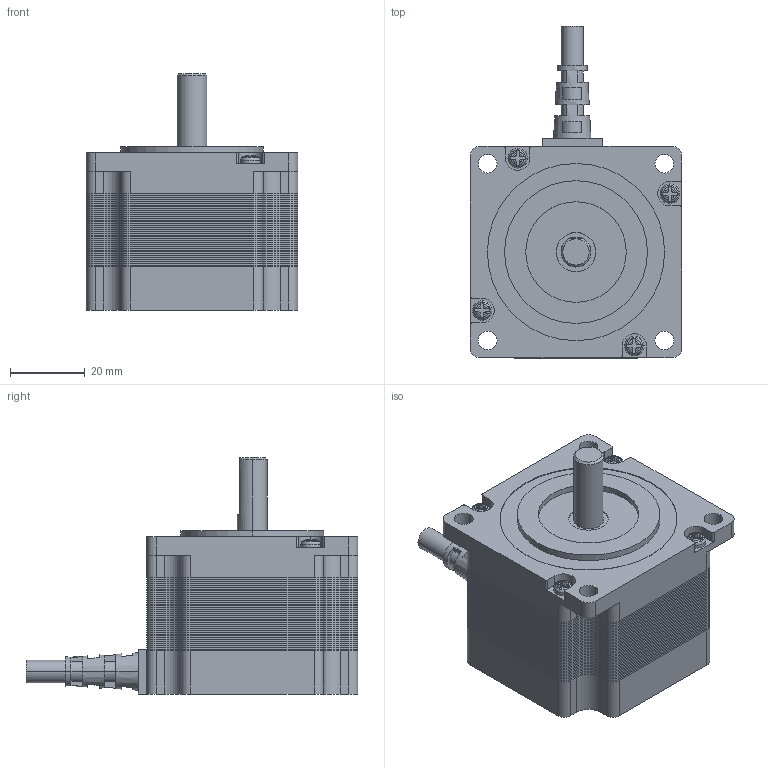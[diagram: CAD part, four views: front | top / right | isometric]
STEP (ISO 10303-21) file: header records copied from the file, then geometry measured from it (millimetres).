
FILE_DESCRIPTION (( 'STEP AP203' ), '1' );
FILE_NAME ('SM2301.STEP', '2020-05-23T06:04:11', ( 'Windows' ), ( 'Microsoft' ), 'SwSTEP 2.0', 'SolidWorks 2016', '' );
FILE_SCHEMA (( 'CONFIG_CONTROL_DESIGN' ));
Length unit declared in the file: millimetre
Products named in the file (1): SM2301
Bounding box: 56.4 x 88.6 x 63 mm (x, y, z)
Volume: 123917.3 mm3; surface area: 246105.1 mm2
Topology: 42 solids, 42 shells, 1329 faces, 3663 edges, 2431 vertices
Faces by surface type: plane 707, cylinder 575, torus 24, cone 15, sphere 8
Entity records: 42785 total; most frequent: CARTESIAN_POINT 7692, DIRECTION 7570, ORIENTED_EDGE 7310, EDGE_CURVE 3655, AXIS2_PLACEMENT_3D 2635, VERTEX_POINT 2431, VECTOR 2300, LINE 2300
